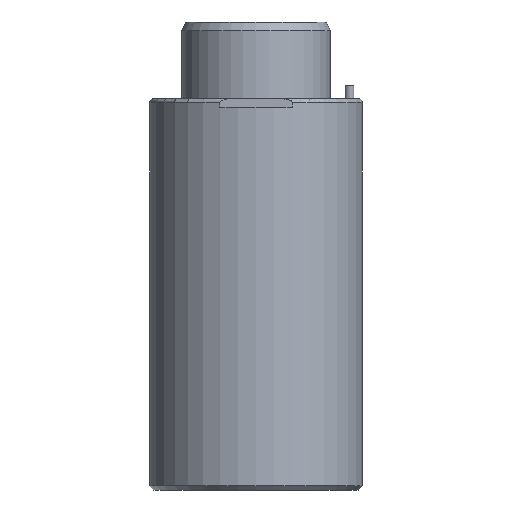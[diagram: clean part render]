
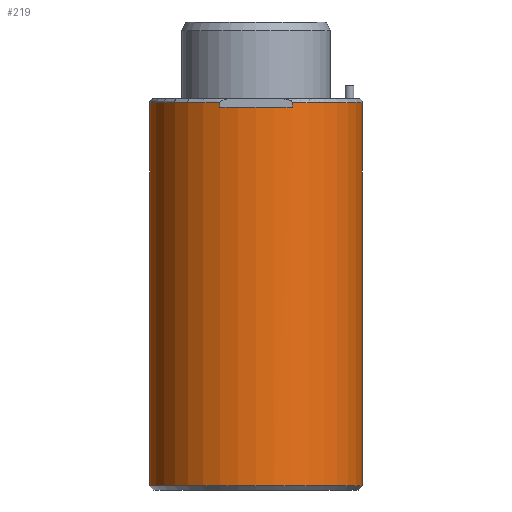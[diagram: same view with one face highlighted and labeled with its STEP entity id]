
A CAD part, left-side view. The second image highlights one B-rep face of the part: STEP entity #219.
In plain terms, the highlighted cylindrical face has radius 25 mm (diameter 50 mm), a partial arc.
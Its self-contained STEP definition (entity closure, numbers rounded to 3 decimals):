
#166=CYLINDRICAL_SURFACE('',#1095,25.);
#219=ADVANCED_FACE('',(#285),#166,.T.);
#285=FACE_OUTER_BOUND('',#354,.T.);
#354=EDGE_LOOP('',(#639,#640,#641,#642,#643,#644,#645,#646));
#371=CIRCLE('',#987,25.);
#429=CIRCLE('',#1091,25.);
#430=CIRCLE('',#1093,25.);
#431=CIRCLE('',#1094,25.);
#639=ORIENTED_EDGE('',*,*,#867,.F.);
#640=ORIENTED_EDGE('',*,*,#868,.F.);
#641=ORIENTED_EDGE('',*,*,#869,.F.);
#642=ORIENTED_EDGE('',*,*,#866,.T.);
#643=ORIENTED_EDGE('',*,*,#863,.T.);
#644=ORIENTED_EDGE('',*,*,#769,.F.);
#645=ORIENTED_EDGE('',*,*,#862,.F.);
#646=ORIENTED_EDGE('',*,*,#870,.T.);
#683=VERTEX_POINT('',#1433);
#686=VERTEX_POINT('',#1438);
#741=VERTEX_POINT('',#1631);
#746=VERTEX_POINT('',#1663);
#750=VERTEX_POINT('',#1697);
#751=VERTEX_POINT('',#1702);
#752=VERTEX_POINT('',#1703);
#753=VERTEX_POINT('',#1705);
#769=EDGE_CURVE('',#683,#686,#371,.T.);
#862=EDGE_CURVE('',#746,#683,#917,.T.);
#863=EDGE_CURVE('',#741,#686,#918,.T.);
#866=EDGE_CURVE('',#750,#741,#429,.T.);
#867=EDGE_CURVE('',#751,#752,#919,.T.);
#868=EDGE_CURVE('',#753,#751,#430,.T.);
#869=EDGE_CURVE('',#750,#753,#920,.T.);
#870=EDGE_CURVE('',#746,#752,#431,.T.);
#917=LINE('',#1671,#965);
#918=LINE('',#1672,#966);
#919=LINE('',#1701,#967);
#920=LINE('',#1706,#968);
#965=VECTOR('',#1375,1.);
#966=VECTOR('',#1376,1.);
#967=VECTOR('',#1385,1.);
#968=VECTOR('',#1388,1.);
#987=AXIS2_PLACEMENT_3D('',#1441,#1137,#1138);
#1091=AXIS2_PLACEMENT_3D('',#1699,#1381,#1382);
#1093=AXIS2_PLACEMENT_3D('',#1704,#1386,#1387);
#1094=AXIS2_PLACEMENT_3D('',#1707,#1389,#1390);
#1095=AXIS2_PLACEMENT_3D('',#1708,#1391,#1392);
#1137=DIRECTION('',(0.,0.,-1.));
#1138=DIRECTION('',(1.,0.,0.));
#1375=DIRECTION('',(0.,0.,-1.));
#1376=DIRECTION('',(0.,0.,-1.));
#1381=DIRECTION('',(0.,0.,-1.));
#1382=DIRECTION('',(1.,0.,0.));
#1385=DIRECTION('',(0.,0.,1.));
#1386=DIRECTION('',(0.,0.,1.));
#1387=DIRECTION('',(-0.845,0.535,0.));
#1388=DIRECTION('',(0.,0.,-1.));
#1389=DIRECTION('',(0.,0.,-1.));
#1390=DIRECTION('',(1.,0.,0.));
#1391=DIRECTION('',(0.,0.,-1.));
#1392=DIRECTION('',(-1.,0.,0.));
#1433=CARTESIAN_POINT('',(0.,-25.,1.));
#1438=CARTESIAN_POINT('',(0.,25.,1.));
#1441=CARTESIAN_POINT('',(0.,0.,1.));
#1631=CARTESIAN_POINT('',(0.,25.,91.));
#1663=CARTESIAN_POINT('',(0.,-25.,91.));
#1671=CARTESIAN_POINT('',(0.,-25.,1.));
#1672=CARTESIAN_POINT('',(0.,25.,1.));
#1697=CARTESIAN_POINT('',(-23.5,8.529,91.));
#1699=CARTESIAN_POINT('',(0.,0.,91.));
#1701=CARTESIAN_POINT('',(-23.5,-8.529,92.02));
#1702=CARTESIAN_POINT('',(-23.5,-8.529,90.));
#1703=CARTESIAN_POINT('',(-23.5,-8.529,91.));
#1704=CARTESIAN_POINT('',(0.,0.,90.));
#1705=CARTESIAN_POINT('',(-23.5,8.529,90.));
#1706=CARTESIAN_POINT('',(-23.5,8.529,92.02));
#1707=CARTESIAN_POINT('',(0.,0.,91.));
#1708=CARTESIAN_POINT('',(0.,0.,91.));
